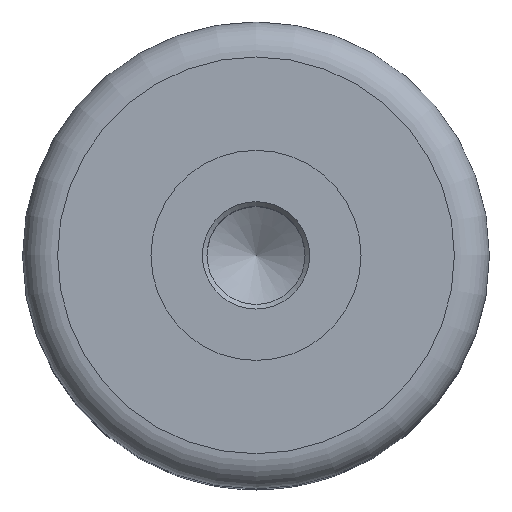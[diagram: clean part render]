
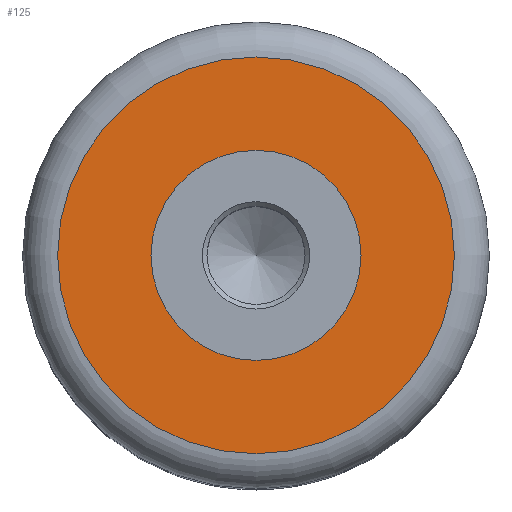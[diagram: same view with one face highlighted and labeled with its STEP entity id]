
A CAD part, top view. The second image highlights one B-rep face of the part: STEP entity #125.
In plain terms, the highlighted planar face has unit normal (0, 0, 1).
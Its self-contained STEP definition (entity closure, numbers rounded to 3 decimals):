
#125=ADVANCED_FACE('',(#219,#220),#221,.T.);
#219=FACE_BOUND('',#304,.T.);
#220=FACE_OUTER_BOUND('',#305,.T.);
#221=PLANE('',#306);
#304=EDGE_LOOP('',(#409));
#305=EDGE_LOOP('',(#410));
#306=AXIS2_PLACEMENT_3D('',#411,#412,#413);
#409=ORIENTED_EDGE('',*,*,#472,.F.);
#410=ORIENTED_EDGE('',*,*,#469,.T.);
#411=CARTESIAN_POINT('',(0.0,0.0,15.25));
#412=DIRECTION('',(0.0,0.0,1.0));
#413=DIRECTION('',(1.0,0.0,0.0));
#469=EDGE_CURVE('',#521,#521,#522,.T.);
#472=EDGE_CURVE('',#526,#526,#527,.T.);
#521=VERTEX_POINT('',#705);
#522=CIRCLE('',#706,8.5);
#526=VERTEX_POINT('',#710);
#527=CIRCLE('',#711,4.5);
#705=CARTESIAN_POINT('',(8.5,0.0,15.25));
#706=AXIS2_PLACEMENT_3D('',#760,#761,#762);
#710=CARTESIAN_POINT('',(4.5,0.0,15.25));
#711=AXIS2_PLACEMENT_3D('',#766,#767,#768);
#760=CARTESIAN_POINT('',(0.0,0.0,15.25));
#761=DIRECTION('',(0.0,0.0,1.0));
#762=DIRECTION('',(1.0,0.0,0.0));
#766=CARTESIAN_POINT('',(0.0,0.0,15.25));
#767=DIRECTION('',(0.0,0.0,1.0));
#768=DIRECTION('',(1.0,0.0,0.0));
